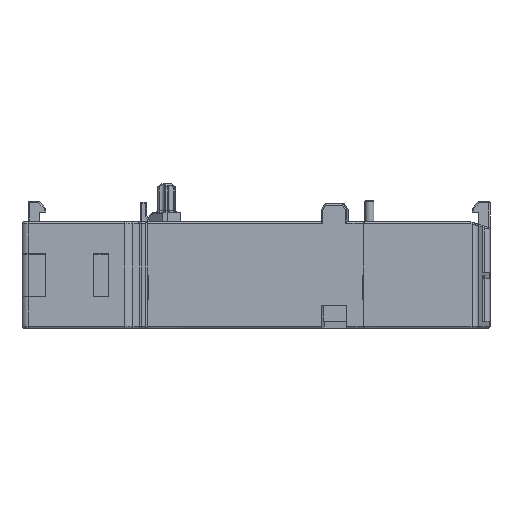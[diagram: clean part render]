
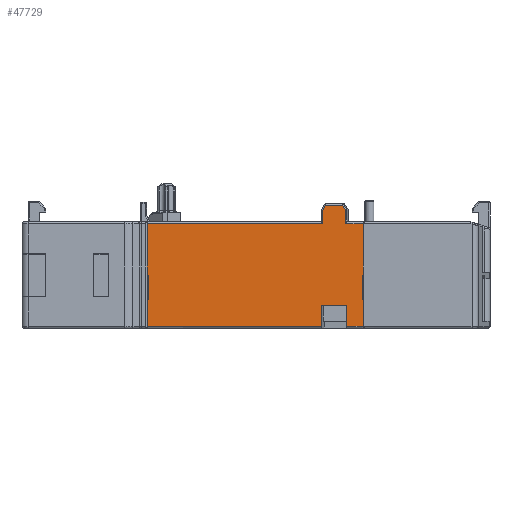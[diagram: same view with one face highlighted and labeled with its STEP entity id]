
A CAD part, front view. The second image highlights one B-rep face of the part: STEP entity #47729.
In plain terms, the highlighted planar face has unit normal (0, -1, 0).
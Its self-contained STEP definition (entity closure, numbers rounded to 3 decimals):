
#2560=DIRECTION('',(0.,0.,1.));
#2561=VECTOR('',#2560,4.55);
#2562=CARTESIAN_POINT('',(9.8,-46.,0.3));
#2563=LINE('',#2562,#2561);
#2576=DIRECTION('',(-1.,0.,0.));
#2577=VECTOR('',#2576,0.1);
#2578=CARTESIAN_POINT('',(9.8,-46.,8.85));
#2579=LINE('',#2578,#2577);
#5259=DIRECTION('',(0.,0.,-1.));
#5260=VECTOR('',#5259,4.);
#5261=CARTESIAN_POINT('',(-26.,-46.,8.85));
#5262=LINE('',#5261,#5260);
#5263=DIRECTION('',(-1.,0.,0.));
#5264=VECTOR('',#5263,0.2);
#5265=CARTESIAN_POINT('',(-26.,-46.,8.85));
#5266=LINE('',#5265,#5264);
#5407=DIRECTION('',(1.,0.,0.));
#5408=VECTOR('',#5407,0.2);
#5409=CARTESIAN_POINT('',(-26.2,-46.,4.85));
#5410=LINE('',#5409,#5408);
#5411=DIRECTION('',(0.,0.,-1.));
#5412=VECTOR('',#5411,8.55);
#5413=CARTESIAN_POINT('',(-26.2,-46.,17.4));
#5414=LINE('',#5413,#5412);
#5415=DIRECTION('',(1.,0.,0.));
#5416=VECTOR('',#5415,29.192);
#5417=CARTESIAN_POINT('',(-26.2,-46.,17.4));
#5418=LINE('',#5417,#5416);
#5419=DIRECTION('',(-0.506,0.,-0.863));
#5420=VECTOR('',#5419,0.989);
#5421=CARTESIAN_POINT('',(3.493,-46.,20.5));
#5422=LINE('',#5421,#5420);
#5423=DIRECTION('',(1.,0.,0.));
#5424=VECTOR('',#5423,2.858);
#5425=CARTESIAN_POINT('',(3.493,-46.,20.5));
#5426=LINE('',#5425,#5424);
#5427=DIRECTION('',(-0.506,0.,0.863));
#5428=VECTOR('',#5427,0.989);
#5429=CARTESIAN_POINT('',(6.851,-46.,19.646));
#5430=LINE('',#5429,#5428);
#5431=DIRECTION('',(1.,0.,0.));
#5432=VECTOR('',#5431,2.949);
#5433=CARTESIAN_POINT('',(6.851,-46.,17.4));
#5434=LINE('',#5433,#5432);
#5435=DIRECTION('',(0.,0.,-1.));
#5436=VECTOR('',#5435,8.55);
#5437=CARTESIAN_POINT('',(9.8,-46.,17.4));
#5438=LINE('',#5437,#5436);
#5439=DIRECTION('',(0.,0.,-1.));
#5440=VECTOR('',#5439,4.);
#5441=CARTESIAN_POINT('',(9.7,-46.,8.85));
#5442=LINE('',#5441,#5440);
#5443=DIRECTION('',(1.,0.,0.));
#5444=VECTOR('',#5443,0.1);
#5445=CARTESIAN_POINT('',(9.7,-46.,4.85));
#5446=LINE('',#5445,#5444);
#5447=DIRECTION('',(-1.,0.,0.));
#5448=VECTOR('',#5447,2.832);
#5449=CARTESIAN_POINT('',(9.8,-46.,0.3));
#5450=LINE('',#5449,#5448);
#5451=DIRECTION('',(0.,0.,1.));
#5452=VECTOR('',#5451,3.5);
#5453=CARTESIAN_POINT('',(6.968,-46.,0.3));
#5454=LINE('',#5453,#5452);
#5455=DIRECTION('',(-1.,0.,0.));
#5456=VECTOR('',#5455,4.163);
#5457=CARTESIAN_POINT('',(6.968,-46.,3.8));
#5458=LINE('',#5457,#5456);
#5459=DIRECTION('',(0.,0.,1.));
#5460=VECTOR('',#5459,3.5);
#5461=CARTESIAN_POINT('',(2.805,-46.,0.3));
#5462=LINE('',#5461,#5460);
#5463=DIRECTION('',(-1.,0.,0.));
#5464=VECTOR('',#5463,29.005);
#5465=CARTESIAN_POINT('',(2.805,-46.,0.3));
#5466=LINE('',#5465,#5464);
#5467=DIRECTION('',(0.,0.,1.));
#5468=VECTOR('',#5467,4.55);
#5469=CARTESIAN_POINT('',(-26.2,-46.,0.3));
#5470=LINE('',#5469,#5468);
#5471=DIRECTION('',(0.,0.,-1.));
#5472=VECTOR('',#5471,2.246);
#5473=CARTESIAN_POINT('',(2.992,-46.,19.646));
#5474=LINE('',#5473,#5472);
#5871=DIRECTION('',(0.,0.,1.));
#5872=VECTOR('',#5871,2.246);
#5873=CARTESIAN_POINT('',(6.851,-46.,17.4));
#5874=LINE('',#5873,#5872);
#5971=CARTESIAN_POINT('',(6.968,-46.,0.3));
#5985=CARTESIAN_POINT('',(2.805,-46.,0.3));
#33888=CARTESIAN_POINT('',(6.968,-46.,3.8));
#33889=CARTESIAN_POINT('',(2.805,-46.,3.8));
#33890=VERTEX_POINT('',#33888);
#33891=VERTEX_POINT('',#33889);
#34846=CARTESIAN_POINT('',(-26.2,-46.,4.85));
#34847=VERTEX_POINT('',#34846);
#34848=CARTESIAN_POINT('',(9.8,-46.,4.85));
#34849=VERTEX_POINT('',#34848);
#35313=CARTESIAN_POINT('',(9.8,-46.,0.3));
#35314=VERTEX_POINT('',#35313);
#35316=VERTEX_POINT('',#5971);
#35317=VERTEX_POINT('',#5985);
#35321=CARTESIAN_POINT('',(-26.2,-46.,0.3));
#35322=VERTEX_POINT('',#35321);
#40236=CARTESIAN_POINT('',(9.7,-46.,8.85));
#40238=VERTEX_POINT('',#40236);
#40239=CARTESIAN_POINT('',(-26.,-46.,8.85));
#40241=VERTEX_POINT('',#40239);
#40419=CARTESIAN_POINT('',(3.493,-46.,20.5));
#40420=CARTESIAN_POINT('',(6.351,-46.,20.5));
#40421=VERTEX_POINT('',#40419);
#40422=VERTEX_POINT('',#40420);
#40427=CARTESIAN_POINT('',(6.851,-46.,19.646));
#40428=VERTEX_POINT('',#40427);
#40449=CARTESIAN_POINT('',(2.992,-46.,19.646));
#40450=VERTEX_POINT('',#40449);
#41497=CARTESIAN_POINT('',(-26.2,-46.,17.4));
#41498=VERTEX_POINT('',#41497);
#41499=CARTESIAN_POINT('',(2.992,-46.,17.4));
#41500=VERTEX_POINT('',#41499);
#41507=CARTESIAN_POINT('',(6.851,-46.,17.4));
#41508=CARTESIAN_POINT('',(9.8,-46.,17.4));
#41509=VERTEX_POINT('',#41507);
#41510=VERTEX_POINT('',#41508);
#41602=CARTESIAN_POINT('',(9.8,-46.,8.85));
#41604=VERTEX_POINT('',#41602);
#41719=CARTESIAN_POINT('',(-26.2,-46.,8.85));
#41721=VERTEX_POINT('',#41719);
#41779=CARTESIAN_POINT('',(9.7,-46.,4.85));
#41780=VERTEX_POINT('',#41779);
#41781=CARTESIAN_POINT('',(-26.,-46.,4.85));
#41782=VERTEX_POINT('',#41781);
#47688=CARTESIAN_POINT('',(-27.2,-46.,1.15));
#47689=DIRECTION('',(0.,-1.,0.));
#47690=DIRECTION('',(1.,0.,0.));
#47691=AXIS2_PLACEMENT_3D('',#47688,#47689,#47690);
#47692=PLANE('',#47691);
#47693=ORIENTED_EDGE('',*,*,#47541,.T.);
#47694=ORIENTED_EDGE('',*,*,#47563,.F.);
#47695=ORIENTED_EDGE('',*,*,#47575,.T.);
#47696=ORIENTED_EDGE('',*,*,#47591,.F.);
#47697=ORIENTED_EDGE('',*,*,#47677,.T.);
#47699=ORIENTED_EDGE('',*,*,#47698,.F.);
#47701=ORIENTED_EDGE('',*,*,#47700,.F.);
#47703=ORIENTED_EDGE('',*,*,#47702,.T.);
#47705=ORIENTED_EDGE('',*,*,#47704,.F.);
#47707=ORIENTED_EDGE('',*,*,#47706,.F.);
#47709=ORIENTED_EDGE('',*,*,#47708,.T.);
#47710=ORIENTED_EDGE('',*,*,#44536,.T.);
#47711=ORIENTED_EDGE('',*,*,#44564,.T.);
#47713=ORIENTED_EDGE('',*,*,#47712,.T.);
#47714=ORIENTED_EDGE('',*,*,#47547,.T.);
#47715=ORIENTED_EDGE('',*,*,#44543,.F.);
#47717=ORIENTED_EDGE('',*,*,#47716,.T.);
#47719=ORIENTED_EDGE('',*,*,#47718,.T.);
#47721=ORIENTED_EDGE('',*,*,#47720,.T.);
#47723=ORIENTED_EDGE('',*,*,#47722,.F.);
#47725=ORIENTED_EDGE('',*,*,#47724,.T.);
#47726=ORIENTED_EDGE('',*,*,#47597,.T.);
#47727=EDGE_LOOP('',(#47693,#47694,#47695,#47696,#47697,#47699,#47701,#47703,
#47705,#47707,#47709,#47710,#47711,#47713,#47714,#47715,#47717,#47719,#47721,
#47723,#47725,#47726));
#47728=FACE_OUTER_BOUND('',#47727,.F.);
#47729=ADVANCED_FACE('',(#47728),#47692,.T.);
#44536=EDGE_CURVE('',#41510,#41604,#5438,.T.);
#44543=EDGE_CURVE('',#35314,#34849,#2563,.T.);
#44564=EDGE_CURVE('',#41604,#40238,#2579,.T.);
#47541=EDGE_CURVE('',#34847,#41782,#5410,.T.);
#47547=EDGE_CURVE('',#41780,#34849,#5446,.T.);
#47563=EDGE_CURVE('',#40241,#41782,#5262,.T.);
#47575=EDGE_CURVE('',#40241,#41721,#5266,.T.);
#47591=EDGE_CURVE('',#41498,#41721,#5414,.T.);
#47597=EDGE_CURVE('',#35322,#34847,#5470,.T.);
#47677=EDGE_CURVE('',#41498,#41500,#5418,.T.);
#47698=EDGE_CURVE('',#40450,#41500,#5474,.T.);
#47700=EDGE_CURVE('',#40421,#40450,#5422,.T.);
#47702=EDGE_CURVE('',#40421,#40422,#5426,.T.);
#47704=EDGE_CURVE('',#40428,#40422,#5430,.T.);
#47706=EDGE_CURVE('',#41509,#40428,#5874,.T.);
#47708=EDGE_CURVE('',#41509,#41510,#5434,.T.);
#47712=EDGE_CURVE('',#40238,#41780,#5442,.T.);
#47716=EDGE_CURVE('',#35314,#35316,#5450,.T.);
#47718=EDGE_CURVE('',#35316,#33890,#5454,.T.);
#47720=EDGE_CURVE('',#33890,#33891,#5458,.T.);
#47722=EDGE_CURVE('',#35317,#33891,#5462,.T.);
#47724=EDGE_CURVE('',#35317,#35322,#5466,.T.);
